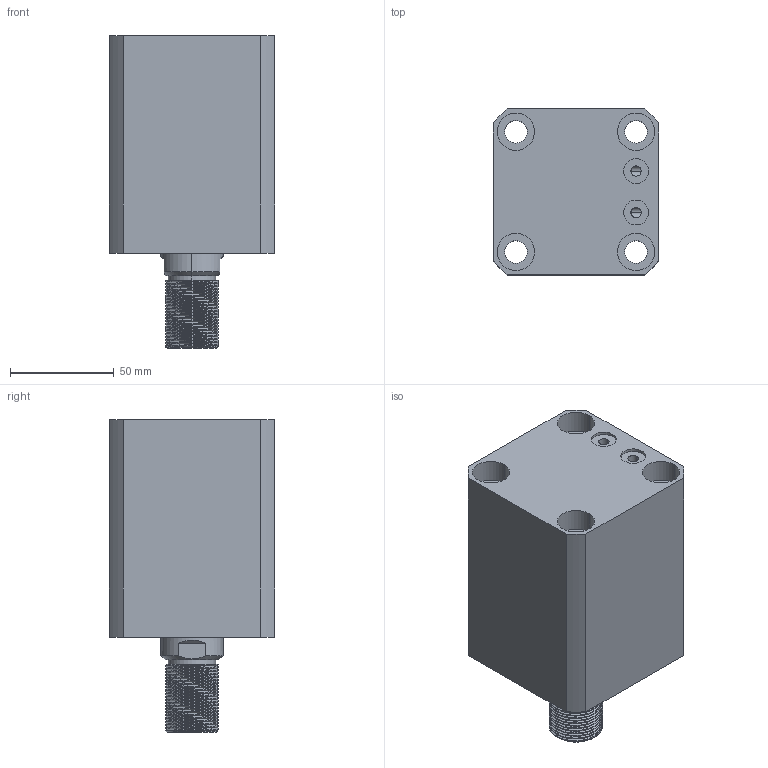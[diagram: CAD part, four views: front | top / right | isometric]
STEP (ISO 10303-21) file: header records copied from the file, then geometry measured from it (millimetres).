
FILE_DESCRIPTION (( 'STEP AP203' ), '1' );
FILE_NAME ('CHTB-SDMB50-45W.STEP', '2018-05-19T05:47:04', ( '' ), ( '' ), 'SwSTEP 2.0', 'SolidWorks 2015', '' );
FILE_SCHEMA (( 'CONFIG_CONTROL_DESIGN' ));
Length unit declared in the file: millimetre
Products named in the file (5): CHTB-SDMB50-45W; M6; 活塞杆SDMB50-40W; 掛极SDMB50-40W; CHTM-SDMA50QG
Assembly tree (5 placements, depth 2):
  CHTB-SDMB50-45W
    掛极SDMB50-40W
    活塞杆SDMB50-40W
    CHTM-SDMA50QG
    M6  x2
Bounding box: 80 x 80 x 151 mm (x, y, z)
Volume: 576847.5 mm3; surface area: 113256.6 mm2
Topology: 5 solids, 5 shells, 305 faces, 821 edges, 547 vertices
Faces by surface type: cylinder 175, plane 57, cone 29, bspline 28, torus 16
Entity records: 17763 total; most frequent: CARTESIAN_POINT 11022, ORIENTED_EDGE 1448, DIRECTION 1131, EDGE_CURVE 724, VERTEX_POINT 486, AXIS2_PLACEMENT_3D 455, EDGE_LOOP 312, FACE_OUTER_BOUND 270
